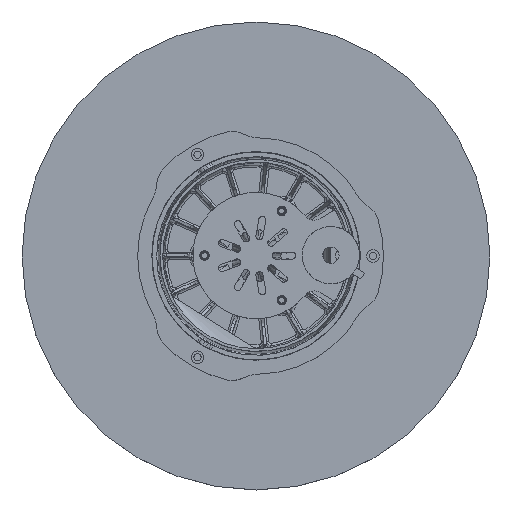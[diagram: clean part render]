
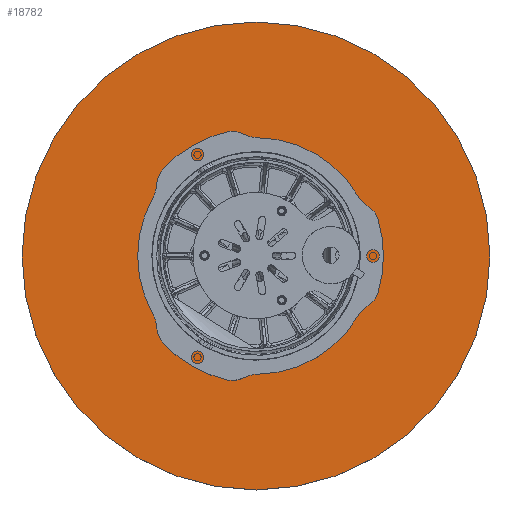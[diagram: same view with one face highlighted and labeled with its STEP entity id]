
A CAD part, top view. The second image highlights one B-rep face of the part: STEP entity #18782.
In plain terms, the highlighted planar face has unit normal (0, 0, 1).
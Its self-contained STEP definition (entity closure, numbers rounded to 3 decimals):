
#514=FACE_BOUND('',#3948,.T.);
#738=PLANE('',#20404);
#2841=FACE_OUTER_BOUND('',#3947,.T.);
#3947=EDGE_LOOP('',(#16892));
#3948=EDGE_LOOP('',(#16893));
#6727=CIRCLE('',#20399,47.);
#6729=CIRCLE('',#20402,100.);
#8544=VERTEX_POINT('',#109747);
#8546=VERTEX_POINT('',#109753);
#11349=EDGE_CURVE('',#8544,#8544,#6727,.T.);
#11352=EDGE_CURVE('',#8546,#8546,#6729,.T.);
#16892=ORIENTED_EDGE('',*,*,#11352,.F.);
#16893=ORIENTED_EDGE('',*,*,#11349,.F.);
#18782=ADVANCED_FACE('',(#2841,#514),#738,.F.);
#20399=AXIS2_PLACEMENT_3D('',#109749,#24303,#24304);
#20402=AXIS2_PLACEMENT_3D('',#109755,#24310,#24311);
#20404=AXIS2_PLACEMENT_3D('',#109757,#24314,#24315);
#24303=DIRECTION('center_axis',(0.,0.,
1.));
#24304=DIRECTION('ref_axis',(1.,0.,0.));
#24310=DIRECTION('center_axis',(0.,0.,
-1.));
#24311=DIRECTION('ref_axis',(1.,0.,0.));
#24314=DIRECTION('center_axis',(0.,0.,
-1.));
#24315=DIRECTION('ref_axis',(1.,0.,0.));
#109747=CARTESIAN_POINT('',(-47.,0.,27.277));
#109749=CARTESIAN_POINT('Origin',(0.,0.,
27.277));
#109753=CARTESIAN_POINT('',(-100.,0.,27.277));
#109755=CARTESIAN_POINT('Origin',(0.,0.,
27.277));
#109757=CARTESIAN_POINT('Origin',(0.,0.,
27.277));
